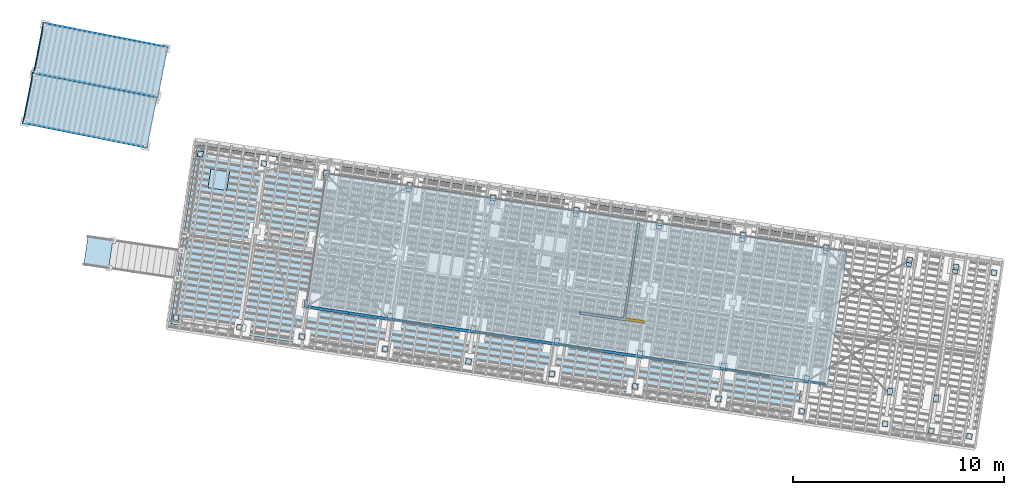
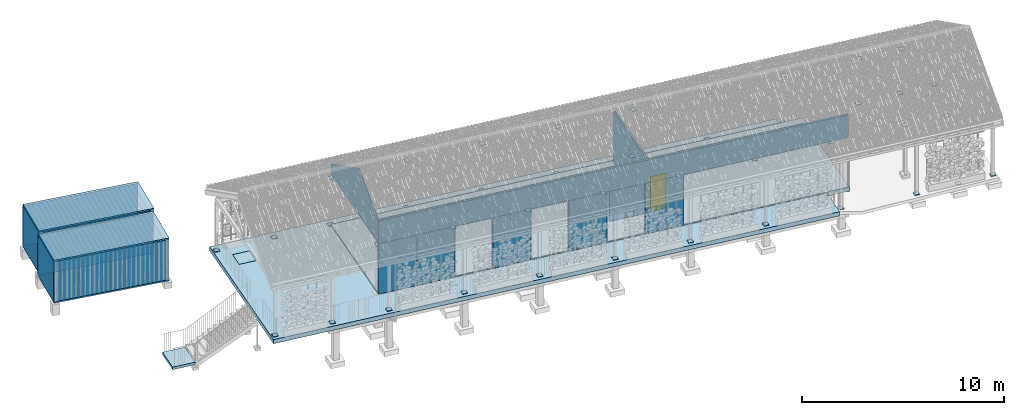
# One storey, part 120 of 131: 50 plates, 7 slabs, 7 walls, 1 door, 3 openings, 5 elements without a shape of their own.
"""IFC4 building model written with IfcOpenShell, lengths in metres."""

from ifc_helpers import new_model, si_unit, direction, frame, origin_with_axes, place, context, subcontext, project, spatial, polyline, outline, extrude, material, layer, layer_set, constituent, constituent_set, element, fill, aggregate, save


model = new_model("IFC4")

# Units and contexts
model_context = context("Model", 3, precision=1e-05, world=origin_with_axes(), true_north=direction((0.0, 1.0)))
body_context = subcontext(model_context, "Body", "Model", "MODEL_VIEW")
ifc_project = project(units=[si_unit("AREAUNIT", "SQUARE_METRE"), si_unit("VOLUMEUNIT", "CUBIC_METRE"), si_unit("LENGTHUNIT", "METRE")], contexts=[model_context])

# Site, building, storey
site_placement = place(None, origin_with_axes())
site = spatial("IfcSite", under=ifc_project, at=site_placement, Name="Lares · Rua das Mercês · artigo 4771")
building_placement = place(site_placement, frame((15.0, 9.7, 14.65), z_axis=(0.0, 0.0, 1.0), x_axis=(0.989015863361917, -0.147809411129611, 0.0)))
building = spatial("IfcBuilding", under=site, at=building_placement, Name="Casa Sobreposta")
storey_placement = place(building_placement, origin_with_axes())
storey = spatial("IfcBuildingStorey", under=building, at=storey_placement, Name="00 · Habitação e estacionamento", Elevation=14.65)

# Plates
ifc_material_1 = material(Name="Aço galvanizado / Stahl verzinkt", Category="steel")
plate_1_placement = place(storey_placement, frame((0.0, 0.0, 2.89), z_axis=(0.0, 0.0, 1.0), x_axis=(1.0, 0.0, 0.0)))
element("IfcPlate", 1, at=plate_1_placement, inside=storey, material=ifc_material_1, Name="Cobertura · ligação madeira aço", PredefinedType="SHEET", context=body_context, shape_type="SweptSolid", body=[
    extrude(outline(polyline([(0.12, -0.04), (0.12, 0.28), (-0.12, 0.28), (-0.12, -0.04), (0.12, -0.04)])), origin_with_axes(), (0.0, 0.0, 1.0), 0.012),
])
plate_2_placement = place(storey_placement, frame((0.0, 0.0, 2.89), z_axis=(0.0, 0.0, 1.0), x_axis=(1.0, 0.0, 0.0)))
element("IfcPlate", 2, at=plate_2_placement, inside=storey, material=ifc_material_1, Name="Cobertura · ligação madeira aço", PredefinedType="SHEET", context=body_context, shape_type="SweptSolid", body=[
    extrude(outline(polyline([(0.12, 6.12), (0.12, 6.44), (-0.12, 6.44), (-0.12, 6.12), (0.12, 6.12)])), origin_with_axes(), (0.0, 0.0, 1.0), 0.012),
])
plate_3_placement = place(storey_placement, frame((0.0, 0.0, 2.89), z_axis=(0.0, 0.0, 1.0), x_axis=(1.0, 0.0, 0.0)))
element("IfcPlate", 3, at=plate_3_placement, inside=storey, material=ifc_material_1, Name="Cobertura · ligação madeira aço", PredefinedType="SHEET", context=body_context, shape_type="SweptSolid", body=[
    extrude(outline(polyline([(4.12, -0.04), (4.12, 0.28), (3.88, 0.28), (3.88, -0.04), (4.12, -0.04)])), origin_with_axes(), (0.0, 0.0, 1.0), 0.012),
])
plate_4_placement = place(storey_placement, frame((0.0, 0.0, 2.89), z_axis=(0.0, 0.0, 1.0), x_axis=(1.0, 0.0, 0.0)))
element("IfcPlate", 4, at=plate_4_placement, inside=storey, material=ifc_material_1, Name="Cobertura · ligação madeira aço", PredefinedType="SHEET", context=body_context, shape_type="SweptSolid", body=[
    extrude(outline(polyline([(4.12, 6.12), (4.12, 6.44), (3.88, 6.44), (3.88, 6.12), (4.12, 6.12)])), origin_with_axes(), (0.0, 0.0, 1.0), 0.012),
])
plate_5_placement = place(storey_placement, frame((0.0, 0.0, 2.89), z_axis=(0.0, 0.0, 1.0), x_axis=(1.0, 0.0, 0.0)))
element("IfcPlate", 5, at=plate_5_placement, inside=storey, material=ifc_material_1, Name="Cobertura · ligação madeira aço", PredefinedType="SHEET", context=body_context, shape_type="SweptSolid", body=[
    extrude(outline(polyline([(8.12, -0.04), (8.12, 0.28), (7.88, 0.28), (7.88, -0.04), (8.12, -0.04)])), origin_with_axes(), (0.0, 0.0, 1.0), 0.012),
])
plate_6_placement = place(storey_placement, frame((0.0, 0.0, 2.89), z_axis=(0.0, 0.0, 1.0), x_axis=(1.0, 0.0, 0.0)))
element("IfcPlate", 6, at=plate_6_placement, inside=storey, material=ifc_material_1, Name="Cobertura · ligação madeira aço", PredefinedType="SHEET", context=body_context, shape_type="SweptSolid", body=[
    extrude(outline(polyline([(8.12, 6.12), (8.12, 6.44), (7.88, 6.44), (7.88, 6.12), (8.12, 6.12)])), origin_with_axes(), (0.0, 0.0, 1.0), 0.012),
])
plate_7_placement = place(storey_placement, frame((0.0, 0.0, 2.89), z_axis=(0.0, 0.0, 1.0), x_axis=(1.0, 0.0, 0.0)))
element("IfcPlate", 7, at=plate_7_placement, inside=storey, material=ifc_material_1, Name="Cobertura · ligação madeira aço", PredefinedType="SHEET", context=body_context, shape_type="SweptSolid", body=[
    extrude(outline(polyline([(12.12, -0.04), (12.12, 0.28), (11.88, 0.28), (11.88, -0.04), (12.12, -0.04)])), origin_with_axes(), (0.0, 0.0, 1.0), 0.012),
])
plate_8_placement = place(storey_placement, frame((0.0, 0.0, 2.89), z_axis=(0.0, 0.0, 1.0), x_axis=(1.0, 0.0, 0.0)))
element("IfcPlate", 8, at=plate_8_placement, inside=storey, material=ifc_material_1, Name="Cobertura · ligação madeira aço", PredefinedType="SHEET", context=body_context, shape_type="SweptSolid", body=[
    extrude(outline(polyline([(12.12, 6.12), (12.12, 6.44), (11.88, 6.44), (11.88, 6.12), (12.12, 6.12)])), origin_with_axes(), (0.0, 0.0, 1.0), 0.012),
])
plate_9_placement = place(storey_placement, frame((0.0, 0.0, 2.89), z_axis=(0.0, 0.0, 1.0), x_axis=(1.0, 0.0, 0.0)))
element("IfcPlate", 9, at=plate_9_placement, inside=storey, material=ifc_material_1, Name="Cobertura · ligação madeira aço", PredefinedType="SHEET", context=body_context, shape_type="SweptSolid", body=[
    extrude(outline(polyline([(16.12, -0.04), (16.12, 0.28), (15.88, 0.28), (15.88, -0.04), (16.12, -0.04)])), origin_with_axes(), (0.0, 0.0, 1.0), 0.012),
])
plate_10_placement = place(storey_placement, frame((0.0, 0.0, 2.89), z_axis=(0.0, 0.0, 1.0), x_axis=(1.0, 0.0, 0.0)))
element("IfcPlate", 10, at=plate_10_placement, inside=storey, material=ifc_material_1, Name="Cobertura · ligação madeira aço", PredefinedType="SHEET", context=body_context, shape_type="SweptSolid", body=[
    extrude(outline(polyline([(16.12, 6.12), (16.12, 6.44), (15.88, 6.44), (15.88, 6.12), (16.12, 6.12)])), origin_with_axes(), (0.0, 0.0, 1.0), 0.012),
])
plate_11_placement = place(storey_placement, frame((0.0, 0.0, 2.89), z_axis=(0.0, 0.0, 1.0), x_axis=(1.0, 0.0, 0.0)))
element("IfcPlate", 11, at=plate_11_placement, inside=storey, material=ifc_material_1, Name="Cobertura · ligação madeira aço", PredefinedType="SHEET", context=body_context, shape_type="SweptSolid", body=[
    extrude(outline(polyline([(20.12, -0.04), (20.12, 0.28), (19.88, 0.28), (19.88, -0.04), (20.12, -0.04)])), origin_with_axes(), (0.0, 0.0, 1.0), 0.012),
])
plate_12_placement = place(storey_placement, frame((0.0, 0.0, 2.89), z_axis=(0.0, 0.0, 1.0), x_axis=(1.0, 0.0, 0.0)))
element("IfcPlate", 12, at=plate_12_placement, inside=storey, material=ifc_material_1, Name="Cobertura · ligação madeira aço", PredefinedType="SHEET", context=body_context, shape_type="SweptSolid", body=[
    extrude(outline(polyline([(20.12, 6.12), (20.12, 6.44), (19.88, 6.44), (19.88, 6.12), (20.12, 6.12)])), origin_with_axes(), (0.0, 0.0, 1.0), 0.012),
])
plate_13_placement = place(storey_placement, frame((0.0, 0.0, 2.89), z_axis=(0.0, 0.0, 1.0), x_axis=(1.0, 0.0, 0.0)))
element("IfcPlate", 13, at=plate_13_placement, inside=storey, material=ifc_material_1, Name="Cobertura · ligação madeira aço", PredefinedType="SHEET", context=body_context, shape_type="SweptSolid", body=[
    extrude(outline(polyline([(24.12, -0.04), (24.12, 0.28), (23.88, 0.28), (23.88, -0.04), (24.12, -0.04)])), origin_with_axes(), (0.0, 0.0, 1.0), 0.012),
])
plate_14_placement = place(storey_placement, frame((0.0, 0.0, 2.89), z_axis=(0.0, 0.0, 1.0), x_axis=(1.0, 0.0, 0.0)))
element("IfcPlate", 14, at=plate_14_placement, inside=storey, material=ifc_material_1, Name="Cobertura · ligação madeira aço", PredefinedType="SHEET", context=body_context, shape_type="SweptSolid", body=[
    extrude(outline(polyline([(24.12, 6.12), (24.12, 6.44), (23.88, 6.44), (23.88, 6.12), (24.12, 6.12)])), origin_with_axes(), (0.0, 0.0, 1.0), 0.012),
])
plate_15_placement = place(storey_placement, frame((0.0, 0.0, 2.89), z_axis=(0.0, 0.0, 1.0), x_axis=(1.0, 0.0, 0.0)))
element("IfcPlate", 15, at=plate_15_placement, inside=storey, material=ifc_material_1, Name="Cobertura · ligação madeira aço", PredefinedType="SHEET", context=body_context, shape_type="SweptSolid", body=[
    extrude(outline(polyline([(28.12, -0.04), (28.12, 0.28), (27.88, 0.28), (27.88, -0.04), (28.12, -0.04)])), origin_with_axes(), (0.0, 0.0, 1.0), 0.012),
])
plate_16_placement = place(storey_placement, frame((0.0, 0.0, 2.89), z_axis=(0.0, 0.0, 1.0), x_axis=(1.0, 0.0, 0.0)))
element("IfcPlate", 16, at=plate_16_placement, inside=storey, material=ifc_material_1, Name="Cobertura · ligação madeira aço", PredefinedType="SHEET", context=body_context, shape_type="SweptSolid", body=[
    extrude(outline(polyline([(28.12, 6.12), (28.12, 6.44), (27.88, 6.44), (27.88, 6.12), (28.12, 6.12)])), origin_with_axes(), (0.0, 0.0, 1.0), 0.012),
])
plate_17_placement = place(storey_placement, frame((0.0, 0.0, 2.89), z_axis=(0.0, 0.0, 1.0), x_axis=(1.0, 0.0, 0.0)))
element("IfcPlate", 17, at=plate_17_placement, inside=storey, material=ifc_material_1, Name="Cobertura · ligação madeira aço", PredefinedType="SHEET", context=body_context, shape_type="SweptSolid", body=[
    extrude(outline(polyline([(30.34, -0.04), (30.34, 0.28), (30.1, 0.28), (30.1, -0.04), (30.34, -0.04)])), origin_with_axes(), (0.0, 0.0, 1.0), 0.012),
])
plate_18_placement = place(storey_placement, frame((0.0, 0.0, 2.89), z_axis=(0.0, 0.0, 1.0), x_axis=(1.0, 0.0, 0.0)))
element("IfcPlate", 18, at=plate_18_placement, inside=storey, material=ifc_material_1, Name="Cobertura · ligação madeira aço", PredefinedType="SHEET", context=body_context, shape_type="SweptSolid", body=[
    extrude(outline(polyline([(30.34, 6.12), (30.34, 6.44), (30.1, 6.44), (30.1, 6.12), (30.34, 6.12)])), origin_with_axes(), (0.0, 0.0, 1.0), 0.012),
])
ifc_material_2 = material(Name="Vidro / Normalglas", Category="glass")
plate_19_placement = place(storey_placement, frame((0.0, 0.0, 0.0), z_axis=(1.0, 0.0, 0.0), x_axis=(0.0, 1.0, 0.0)))
element("IfcPlate", 19, at=plate_19_placement, inside=storey, material=ifc_material_2, Name="Empena poente envidraçada", PredefinedType="SHEET", context=body_context, shape_type="SweptSolid", body=[
    extrude(outline(polyline([(0.0, 3.05), (6.4, 3.05), (6.4, 3.66641016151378), (2.55, 5.88920869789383), (0.0, 4.41696551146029), (0.0, 3.05)])), origin_with_axes(), (0.0, 0.0, 1.0), 0.02),
])

# Assembly, slabs, opening, plate
assembly_1_placement = place(storey_placement, origin_with_axes())
assembly_1 = element("IfcElementAssembly", 20, at=assembly_1_placement, inside=storey, Name="Pódio · terraço, casa térrea e cisterna", ObjectType="CISTERN_PODIUM", PredefinedType="USERDEFINED")
ifc_material_3 = material(Name="Betão armado / Stahlbeton", Category="concrete")
slab_1_placement = place(assembly_1_placement, frame((0.0, 0.0, -0.25), z_axis=(0.0, 0.0, 1.0), x_axis=(1.0, 0.0, 0.0)))
slab_1 = element("IfcSlab", 21, at=slab_1_placement, material=ifc_material_3, Name="Pódio · laje da casa 250 mm", PredefinedType="FLOOR", context=body_context, shape_type="SweptSolid", body=[
    extrude(outline(polyline([(25.01, 0.0), (25.01, 6.4), (0.0, 6.4), (0.0, 0.0), (25.01, 0.0)])), origin_with_axes(), (0.0, 0.0, 1.0), 0.25),
])
slab_2_placement = place(assembly_1_placement, frame((0.0, 0.0, -0.29), z_axis=(0.0, 0.0, 1.0), x_axis=(1.0, 0.0, 0.0)))
slab_2 = element("IfcSlab", 22, at=slab_2_placement, material=ifc_material_3, Name="Pódio · terraço e faixa de proteção sul", PredefinedType="FLOOR", context=body_context, shape_type="SweptSolid", body=[
    extrude(outline(polyline([(-6.25, 6.85), (23.8, 6.85), (23.8, 6.4), (0.0, 6.4), (0.0, 0.0), (23.8, 0.0), (23.8, -1.75), (-6.25, -1.75), (-6.25, 6.85)])), origin_with_axes(), (0.0, 0.0, 1.0), 0.25),
])
opening_1_placement = place(slab_2_placement, frame((0.0, 0.0, -0.06), z_axis=(0.0, 0.0, 1.0), x_axis=(1.0, 0.0, 0.0)))
element("IfcOpeningElement", 23, at=opening_1_placement, cuts=slab_2, Name="Cisterna · abertura de inspeção", PredefinedType="OPENING", context=body_context, shape_type="SweptSolid", body=[
    extrude(outline(polyline([(-4.55, 4.9), (-4.55, 5.8), (-5.45, 5.8), (-5.45, 4.9), (-4.55, 4.9)])), origin_with_axes(), (0.0, 0.0, 1.0), 0.4),
])
plate_20_placement = place(assembly_1_placement, frame((0.0, 0.0, -0.085), z_axis=(0.0, 0.0, 1.0), x_axis=(1.0, 0.0, 0.0)))
plate_20 = element("IfcPlate", 24, at=plate_20_placement, material=ifc_material_1, Name="Cisterna · tampa estanque de inspeção", PredefinedType="SHEET", context=body_context, shape_type="SweptSolid", body=[
    extrude(outline(polyline([(-4.55, 4.9), (-4.55, 5.8), (-5.45, 5.8), (-5.45, 4.9), (-4.55, 4.9)])), origin_with_axes(), (0.0, 0.0, 1.0), 0.045),
])
aggregate(assembly_1, [slab_1, slab_2, plate_20])

# Stair, slab
stair_placement = place(storey_placement, origin_with_axes())
stair = element("IfcStair", 25, at=stair_placement, inside=storey, Name="Jardim · escada pela fachada poente", PredefinedType="STRAIGHT_RUN_STAIR")
slab_3_placement = place(stair_placement, frame((0.0, 0.0, -2.1), z_axis=(0.0, 0.0, 1.0), x_axis=(1.0, 0.0, 0.0)))
slab_3 = element("IfcSlab", 26, at=slab_3_placement, material=ifc_material_3, Name="Jardim · patamar poente", PredefinedType="LANDING", context=body_context, shape_type="SweptSolid", body=[
    extrude(outline(polyline([(-9.55, 0.4), (-9.55, 1.8), (-10.75, 1.8), (-10.75, 0.4), (-9.55, 0.4)])), origin_with_axes(), (0.0, 0.0, 1.0), 0.15),
])
aggregate(stair, [slab_3])

# Assembly, plates
assembly_2_placement = place(storey_placement, origin_with_axes())
assembly_2 = element("IfcElementAssembly", 27, at=assembly_2_placement, inside=storey, Name="Varanda coberta · continuação integral da cobertura", ObjectType="COVERED_PODIUM_BALCONY", PredefinedType="USERDEFINED")
plate_21_placement = place(assembly_2_placement, frame((0.0, 0.0, -0.04), z_axis=(0.0, 0.0, 1.0), x_axis=(1.0, 0.0, 0.0)))
plate_21 = element("IfcPlate", 28, at=plate_21_placement, material=ifc_material_1, Name="Varanda coberta · base metálica", PredefinedType="SHEET", context=body_context, shape_type="SweptSolid", body=[
    extrude(outline(polyline([(-5.92, -1.56), (-5.92, -1.3), (-6.18, -1.3), (-6.18, -1.56), (-5.92, -1.56)])), origin_with_axes(), (0.0, 0.0, 1.0), 0.025),
])
plate_22_placement = place(assembly_2_placement, frame((0.0, 0.0, -0.04), z_axis=(0.0, 0.0, 1.0), x_axis=(1.0, 0.0, 0.0)))
plate_22 = element("IfcPlate", 29, at=plate_22_placement, material=ifc_material_1, Name="Varanda coberta · base metálica", PredefinedType="SHEET", context=body_context, shape_type="SweptSolid", body=[
    extrude(outline(polyline([(-5.92, 6.3), (-5.92, 6.56), (-6.18, 6.56), (-6.18, 6.3), (-5.92, 6.3)])), origin_with_axes(), (0.0, 0.0, 1.0), 0.025),
])
plate_23_placement = place(assembly_2_placement, frame((0.0, 0.0, -0.04), z_axis=(0.0, 0.0, 1.0), x_axis=(1.0, 0.0, 0.0)))
plate_23 = element("IfcPlate", 30, at=plate_23_placement, material=ifc_material_1, Name="Varanda coberta · base metálica", PredefinedType="SHEET", context=body_context, shape_type="SweptSolid", body=[
    extrude(outline(polyline([(-2.87, -1.56), (-2.87, -1.3), (-3.13, -1.3), (-3.13, -1.56), (-2.87, -1.56)])), origin_with_axes(), (0.0, 0.0, 1.0), 0.025),
])
plate_24_placement = place(assembly_2_placement, frame((0.0, 0.0, -0.04), z_axis=(0.0, 0.0, 1.0), x_axis=(1.0, 0.0, 0.0)))
plate_24 = element("IfcPlate", 31, at=plate_24_placement, material=ifc_material_1, Name="Varanda coberta · base metálica", PredefinedType="SHEET", context=body_context, shape_type="SweptSolid", body=[
    extrude(outline(polyline([(-2.87, 6.3), (-2.87, 6.56), (-3.13, 6.56), (-3.13, 6.3), (-2.87, 6.3)])), origin_with_axes(), (0.0, 0.0, 1.0), 0.025),
])
plate_25_placement = place(assembly_2_placement, frame((0.0, 0.0, -0.04), z_axis=(0.0, 0.0, 1.0), x_axis=(1.0, 0.0, 0.0)))
plate_25 = element("IfcPlate", 32, at=plate_25_placement, material=ifc_material_1, Name="Varanda coberta · base metálica", PredefinedType="SHEET", context=body_context, shape_type="SweptSolid", body=[
    extrude(outline(polyline([(0.13, -1.56), (0.13, -1.3), (-0.13, -1.3), (-0.13, -1.56), (0.13, -1.56)])), origin_with_axes(), (0.0, 0.0, 1.0), 0.025),
])
plate_26_placement = place(assembly_2_placement, frame((0.0, 0.0, -0.04), z_axis=(0.0, 0.0, 1.0), x_axis=(1.0, 0.0, 0.0)))
plate_26 = element("IfcPlate", 33, at=plate_26_placement, material=ifc_material_1, Name="Varanda coberta · base metálica", PredefinedType="SHEET", context=body_context, shape_type="SweptSolid", body=[
    extrude(outline(polyline([(0.13, 6.3), (0.13, 6.56), (-0.13, 6.56), (-0.13, 6.3), (0.13, 6.3)])), origin_with_axes(), (0.0, 0.0, 1.0), 0.025),
])
plate_27_placement = place(assembly_2_placement, frame((0.0, 0.0, -0.04), z_axis=(0.0, 0.0, 1.0), x_axis=(1.0, 0.0, 0.0)))
plate_27 = element("IfcPlate", 34, at=plate_27_placement, material=ifc_material_1, Name="Varanda coberta · base metálica", PredefinedType="SHEET", context=body_context, shape_type="SweptSolid", body=[
    extrude(outline(polyline([(4.13, -1.56), (4.13, -1.3), (3.87, -1.3), (3.87, -1.56), (4.13, -1.56)])), origin_with_axes(), (0.0, 0.0, 1.0), 0.025),
])
plate_28_placement = place(assembly_2_placement, frame((0.0, 0.0, -0.04), z_axis=(0.0, 0.0, 1.0), x_axis=(1.0, 0.0, 0.0)))
plate_28 = element("IfcPlate", 35, at=plate_28_placement, material=ifc_material_1, Name="Varanda coberta · base metálica", PredefinedType="SHEET", context=body_context, shape_type="SweptSolid", body=[
    extrude(outline(polyline([(4.13, 6.3), (4.13, 6.56), (3.87, 6.56), (3.87, 6.3), (4.13, 6.3)])), origin_with_axes(), (0.0, 0.0, 1.0), 0.025),
])
plate_29_placement = place(assembly_2_placement, frame((0.0, 0.0, -0.04), z_axis=(0.0, 0.0, 1.0), x_axis=(1.0, 0.0, 0.0)))
plate_29 = element("IfcPlate", 36, at=plate_29_placement, material=ifc_material_1, Name="Varanda coberta · base metálica", PredefinedType="SHEET", context=body_context, shape_type="SweptSolid", body=[
    extrude(outline(polyline([(8.13, -1.56), (8.13, -1.3), (7.87, -1.3), (7.87, -1.56), (8.13, -1.56)])), origin_with_axes(), (0.0, 0.0, 1.0), 0.025),
])
plate_30_placement = place(assembly_2_placement, frame((0.0, 0.0, -0.04), z_axis=(0.0, 0.0, 1.0), x_axis=(1.0, 0.0, 0.0)))
plate_30 = element("IfcPlate", 37, at=plate_30_placement, material=ifc_material_1, Name="Varanda coberta · base metálica", PredefinedType="SHEET", context=body_context, shape_type="SweptSolid", body=[
    extrude(outline(polyline([(8.13, 6.3), (8.13, 6.56), (7.87, 6.56), (7.87, 6.3), (8.13, 6.3)])), origin_with_axes(), (0.0, 0.0, 1.0), 0.025),
])
plate_31_placement = place(assembly_2_placement, frame((0.0, 0.0, -0.04), z_axis=(0.0, 0.0, 1.0), x_axis=(1.0, 0.0, 0.0)))
plate_31 = element("IfcPlate", 38, at=plate_31_placement, material=ifc_material_1, Name="Varanda coberta · base metálica", PredefinedType="SHEET", context=body_context, shape_type="SweptSolid", body=[
    extrude(outline(polyline([(12.13, -1.56), (12.13, -1.3), (11.87, -1.3), (11.87, -1.56), (12.13, -1.56)])), origin_with_axes(), (0.0, 0.0, 1.0), 0.025),
])
plate_32_placement = place(assembly_2_placement, frame((0.0, 0.0, -0.04), z_axis=(0.0, 0.0, 1.0), x_axis=(1.0, 0.0, 0.0)))
plate_32 = element("IfcPlate", 39, at=plate_32_placement, material=ifc_material_1, Name="Varanda coberta · base metálica", PredefinedType="SHEET", context=body_context, shape_type="SweptSolid", body=[
    extrude(outline(polyline([(12.13, 6.3), (12.13, 6.56), (11.87, 6.56), (11.87, 6.3), (12.13, 6.3)])), origin_with_axes(), (0.0, 0.0, 1.0), 0.025),
])
plate_33_placement = place(assembly_2_placement, frame((0.0, 0.0, -0.04), z_axis=(0.0, 0.0, 1.0), x_axis=(1.0, 0.0, 0.0)))
plate_33 = element("IfcPlate", 40, at=plate_33_placement, material=ifc_material_1, Name="Varanda coberta · base metálica", PredefinedType="SHEET", context=body_context, shape_type="SweptSolid", body=[
    extrude(outline(polyline([(16.13, -1.56), (16.13, -1.3), (15.87, -1.3), (15.87, -1.56), (16.13, -1.56)])), origin_with_axes(), (0.0, 0.0, 1.0), 0.025),
])
plate_34_placement = place(assembly_2_placement, frame((0.0, 0.0, -0.04), z_axis=(0.0, 0.0, 1.0), x_axis=(1.0, 0.0, 0.0)))
plate_34 = element("IfcPlate", 41, at=plate_34_placement, material=ifc_material_1, Name="Varanda coberta · base metálica", PredefinedType="SHEET", context=body_context, shape_type="SweptSolid", body=[
    extrude(outline(polyline([(16.13, 6.3), (16.13, 6.56), (15.87, 6.56), (15.87, 6.3), (16.13, 6.3)])), origin_with_axes(), (0.0, 0.0, 1.0), 0.025),
])
plate_35_placement = place(assembly_2_placement, frame((0.0, 0.0, -0.04), z_axis=(0.0, 0.0, 1.0), x_axis=(1.0, 0.0, 0.0)))
plate_35 = element("IfcPlate", 42, at=plate_35_placement, material=ifc_material_1, Name="Varanda coberta · base metálica", PredefinedType="SHEET", context=body_context, shape_type="SweptSolid", body=[
    extrude(outline(polyline([(20.13, -1.56), (20.13, -1.3), (19.87, -1.3), (19.87, -1.56), (20.13, -1.56)])), origin_with_axes(), (0.0, 0.0, 1.0), 0.025),
])
plate_36_placement = place(assembly_2_placement, frame((0.0, 0.0, -0.04), z_axis=(0.0, 0.0, 1.0), x_axis=(1.0, 0.0, 0.0)))
plate_36 = element("IfcPlate", 43, at=plate_36_placement, material=ifc_material_1, Name="Varanda coberta · base metálica", PredefinedType="SHEET", context=body_context, shape_type="SweptSolid", body=[
    extrude(outline(polyline([(20.13, 6.3), (20.13, 6.56), (19.87, 6.56), (19.87, 6.3), (20.13, 6.3)])), origin_with_axes(), (0.0, 0.0, 1.0), 0.025),
])
plate_37_placement = place(assembly_2_placement, frame((0.0, 0.0, -0.0895950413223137), z_axis=(0.0, 0.0, 1.0), x_axis=(1.0, 0.0, 0.0)))
plate_37 = element("IfcPlate", 44, at=plate_37_placement, material=ifc_material_1, Name="Varanda coberta · base metálica", PredefinedType="SHEET", context=body_context, shape_type="SweptSolid", body=[
    extrude(outline(polyline([(24.13, -1.56), (24.13, -1.3), (23.87, -1.3), (23.87, -1.56), (24.13, -1.56)])), origin_with_axes(), (0.0, 0.0, 1.0), 0.025),
])
plate_38_placement = place(assembly_2_placement, frame((0.0, 0.0, -0.0376280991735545), z_axis=(0.0, 0.0, 1.0), x_axis=(1.0, 0.0, 0.0)))
plate_38 = element("IfcPlate", 45, at=plate_38_placement, material=ifc_material_1, Name="Varanda coberta · base metálica", PredefinedType="SHEET", context=body_context, shape_type="SweptSolid", body=[
    extrude(outline(polyline([(24.13, 6.3), (24.13, 6.56), (23.87, 6.56), (23.87, 6.3), (24.13, 6.3)])), origin_with_axes(), (0.0, 0.0, 1.0), 0.025),
])
plate_39_placement = place(assembly_2_placement, frame((0.0, 0.0, -0.24005), z_axis=(0.0, 0.0, 1.0), x_axis=(1.0, 0.0, 0.0)))
plate_39 = element("IfcPlate", 46, at=plate_39_placement, material=ifc_material_1, Name="Varanda coberta · base metálica", PredefinedType="SHEET", context=body_context, shape_type="SweptSolid", body=[
    extrude(outline(polyline([(28.13, -1.56), (28.13, -1.3), (27.87, -1.3), (27.87, -1.56), (28.13, -1.56)])), origin_with_axes(), (0.0, 0.0, 1.0), 0.025),
])
plate_40_placement = place(assembly_2_placement, frame((0.0, 0.0, 0.0743500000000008), z_axis=(0.0, 0.0, 1.0), x_axis=(1.0, 0.0, 0.0)))
plate_40 = element("IfcPlate", 47, at=plate_40_placement, material=ifc_material_1, Name="Varanda coberta · base metálica", PredefinedType="SHEET", context=body_context, shape_type="SweptSolid", body=[
    extrude(outline(polyline([(28.13, 6.3), (28.13, 6.56), (27.87, 6.56), (27.87, 6.3), (28.13, 6.3)])), origin_with_axes(), (0.0, 0.0, 1.0), 0.025),
])
plate_41_placement = place(assembly_2_placement, frame((0.0, 0.0, -0.18455), z_axis=(0.0, 0.0, 1.0), x_axis=(1.0, 0.0, 0.0)))
plate_41 = element("IfcPlate", 48, at=plate_41_placement, material=ifc_material_1, Name="Varanda coberta · base metálica", PredefinedType="SHEET", context=body_context, shape_type="SweptSolid", body=[
    extrude(outline(polyline([(30.35, -1.56), (30.35, -1.3), (30.09, -1.3), (30.09, -1.56), (30.35, -1.56)])), origin_with_axes(), (0.0, 0.0, 1.0), 0.025),
])
plate_42_placement = place(assembly_2_placement, frame((0.0, 0.0, 0.129850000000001), z_axis=(0.0, 0.0, 1.0), x_axis=(1.0, 0.0, 0.0)))
plate_42 = element("IfcPlate", 49, at=plate_42_placement, material=ifc_material_1, Name="Varanda coberta · base metálica", PredefinedType="SHEET", context=body_context, shape_type="SweptSolid", body=[
    extrude(outline(polyline([(30.35, 6.3), (30.35, 6.56), (30.09, 6.56), (30.09, 6.3), (30.35, 6.3)])), origin_with_axes(), (0.0, 0.0, 1.0), 0.025),
])
plate_43_placement = place(assembly_2_placement, frame((0.0, 0.0, -0.1388), z_axis=(0.0, 0.0, 1.0), x_axis=(1.0, 0.0, 0.0)))
plate_43 = element("IfcPlate", 50, at=plate_43_placement, material=ifc_material_1, Name="Varanda coberta · base metálica", PredefinedType="SHEET", context=body_context, shape_type="SweptSolid", body=[
    extrude(outline(polyline([(32.18, -1.56), (32.18, -1.3), (31.92, -1.3), (31.92, -1.56), (32.18, -1.56)])), origin_with_axes(), (0.0, 0.0, 1.0), 0.025),
])
plate_44_placement = place(assembly_2_placement, frame((0.0, 0.0, 0.175600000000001), z_axis=(0.0, 0.0, 1.0), x_axis=(1.0, 0.0, 0.0)))
plate_44 = element("IfcPlate", 51, at=plate_44_placement, material=ifc_material_1, Name="Varanda coberta · base metálica", PredefinedType="SHEET", context=body_context, shape_type="SweptSolid", body=[
    extrude(outline(polyline([(32.18, 6.3), (32.18, 6.56), (31.92, 6.56), (31.92, 6.3), (32.18, 6.3)])), origin_with_axes(), (0.0, 0.0, 1.0), 0.025),
])
aggregate(assembly_2, [plate_21, plate_22, plate_23, plate_24, plate_25, plate_26, plate_27, plate_28, plate_29, plate_30, plate_31, plate_32, plate_33, plate_34, plate_35, plate_36, plate_37, plate_38, plate_39, plate_40, plate_41, plate_42, plate_43, plate_44])

# Assembly, slabs, plates
assembly_3_placement = place(storey_placement, frame((-14.4335953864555, 9.04888612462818, 0.0), z_axis=(0.0, 0.0, 1.0), x_axis=(0.999032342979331, -0.0439815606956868, 0.0)))
assembly_3 = element("IfcElementAssembly", 52, at=assembly_3_placement, inside=storey, Name="Contentor existente 1 · 6 m", ObjectType="EXISTING_SHIPPING_CONTAINER", PredefinedType="USERDEFINED")
ifc_material_4 = material(Name="Contentor · pintura 1", Category="steel")
slab_4_placement = place(assembly_3_placement, frame((0.0, 0.0, -1.01314181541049), z_axis=(0.0, 0.0, 1.0), x_axis=(1.0, 0.0, 0.0)))
slab_4 = element("IfcSlab", 53, at=slab_4_placement, material=ifc_material_4, Name="Contentor · piso ou teto", PredefinedType="FLOOR", context=body_context, shape_type="SweptSolid", body=[
    extrude(outline(polyline([(6.0, 0.0), (6.0, 2.44), (0.0, 2.44), (0.0, 0.0), (6.0, 0.0)])), origin_with_axes(), (0.0, 0.0, 1.0), 0.08),
])
slab_5_placement = place(assembly_3_placement, frame((0.0, 0.0, 1.49685818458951), z_axis=(0.0, 0.0, 1.0), x_axis=(1.0, 0.0, 0.0)))
slab_5 = element("IfcSlab", 54, at=slab_5_placement, material=ifc_material_4, Name="Contentor · piso ou teto", PredefinedType="FLOOR", context=body_context, shape_type="SweptSolid", body=[
    extrude(outline(polyline([(6.0, 0.0), (6.0, 2.44), (0.0, 2.44), (0.0, 0.0), (6.0, 0.0)])), origin_with_axes(), (0.0, 0.0, 1.0), 0.08),
])
plate_45_placement = place(assembly_3_placement, frame((0.0, 0.0, -0.933141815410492), z_axis=(0.0, 0.0, 1.0), x_axis=(1.0, 0.0, 0.0)))
plate_45 = element("IfcPlate", 55, at=plate_45_placement, material=ifc_material_4, Name="Contentor · chapa lateral", context=body_context, shape_type="SweptSolid", body=[
    extrude(outline(polyline([(6.0, 0.0325), (6.0, 0.0075), (0.0, 0.0075), (0.0, 0.0325), (6.0, 0.0325)])), origin_with_axes(), (0.0, 0.0, 1.0), 2.43),
])
plate_46_placement = place(assembly_3_placement, frame((0.0, 0.0, -0.933141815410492), z_axis=(0.0, 0.0, 1.0), x_axis=(1.0, 0.0, 0.0)))
plate_46 = element("IfcPlate", 56, at=plate_46_placement, material=ifc_material_4, Name="Contentor · chapa lateral", context=body_context, shape_type="SweptSolid", body=[
    extrude(outline(polyline([(6.0, 2.4325), (6.0, 2.4075), (0.0, 2.4075), (0.0, 2.4325), (6.0, 2.4325)])), origin_with_axes(), (0.0, 0.0, 1.0), 2.43),
])
plate_47_placement = place(assembly_3_placement, frame((0.0, 0.0, -0.933141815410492), z_axis=(0.0, 0.0, 1.0), x_axis=(1.0, 0.0, 0.0)))
plate_47 = element("IfcPlate", 57, at=plate_47_placement, material=ifc_material_4, Name="Contentor · chapa de fundo", context=body_context, shape_type="SweptSolid", body=[
    extrude(outline(polyline([(-0.025, 2.44), (0.025, 2.44), (0.025, 0.0), (-0.025, 0.0), (-0.025, 2.44)])), origin_with_axes(), (0.0, 0.0, 1.0), 2.43),
])
aggregate(assembly_3, [slab_4, slab_5, plate_45, plate_46, plate_47])

assembly_4_placement = place(storey_placement, frame((-14.5932944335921, 6.63122214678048, 0.0), z_axis=(0.0, 0.0, 1.0), x_axis=(0.998832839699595, -0.0483007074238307, 0.0)))
assembly_4 = element("IfcElementAssembly", 58, at=assembly_4_placement, inside=storey, Name="Contentor existente 2 · 6 m", ObjectType="EXISTING_SHIPPING_CONTAINER", PredefinedType="USERDEFINED")
ifc_material_5 = material(Name="Contentor · pintura 2", Category="steel")
slab_6_placement = place(assembly_4_placement, frame((0.0, 0.0, -1.16875169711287), z_axis=(0.0, 0.0, 1.0), x_axis=(1.0, 0.0, 0.0)))
slab_6 = element("IfcSlab", 59, at=slab_6_placement, material=ifc_material_5, Name="Contentor · piso ou teto", PredefinedType="FLOOR", context=body_context, shape_type="SweptSolid", body=[
    extrude(outline(polyline([(6.0, 0.0), (6.0, 2.44), (0.0, 2.44), (0.0, 0.0), (6.0, 0.0)])), origin_with_axes(), (0.0, 0.0, 1.0), 0.08),
])
slab_7_placement = place(assembly_4_placement, frame((0.0, 0.0, 1.34124830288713), z_axis=(0.0, 0.0, 1.0), x_axis=(1.0, 0.0, 0.0)))
slab_7 = element("IfcSlab", 60, at=slab_7_placement, material=ifc_material_5, Name="Contentor · piso ou teto", PredefinedType="FLOOR", context=body_context, shape_type="SweptSolid", body=[
    extrude(outline(polyline([(6.0, 0.0), (6.0, 2.44), (0.0, 2.44), (0.0, 0.0), (6.0, 0.0)])), origin_with_axes(), (0.0, 0.0, 1.0), 0.08),
])
plate_48_placement = place(assembly_4_placement, frame((0.0, 0.0, -1.08875169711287), z_axis=(0.0, 0.0, 1.0), x_axis=(1.0, 0.0, 0.0)))
plate_48 = element("IfcPlate", 61, at=plate_48_placement, material=ifc_material_5, Name="Contentor · chapa lateral", context=body_context, shape_type="SweptSolid", body=[
    extrude(outline(polyline([(6.0, 0.0325), (6.0, 0.0075), (0.0, 0.0075), (0.0, 0.0325), (6.0, 0.0325)])), origin_with_axes(), (0.0, 0.0, 1.0), 2.43),
])
plate_49_placement = place(assembly_4_placement, frame((0.0, 0.0, -1.08875169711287), z_axis=(0.0, 0.0, 1.0), x_axis=(1.0, 0.0, 0.0)))
plate_49 = element("IfcPlate", 62, at=plate_49_placement, material=ifc_material_5, Name="Contentor · chapa lateral", context=body_context, shape_type="SweptSolid", body=[
    extrude(outline(polyline([(6.0, 2.4325), (6.0, 2.4075), (0.0, 2.4075), (0.0, 2.4325), (6.0, 2.4325)])), origin_with_axes(), (0.0, 0.0, 1.0), 2.43),
])
plate_50_placement = place(assembly_4_placement, frame((0.0, 0.0, -1.08875169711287), z_axis=(0.0, 0.0, 1.0), x_axis=(1.0, 0.0, 0.0)))
plate_50 = element("IfcPlate", 63, at=plate_50_placement, material=ifc_material_5, Name="Contentor · chapa de fundo", context=body_context, shape_type="SweptSolid", body=[
    extrude(outline(polyline([(-0.025, 2.44), (0.025, 2.44), (0.025, 0.0), (-0.025, 0.0), (-0.025, 2.44)])), origin_with_axes(), (0.0, 0.0, 1.0), 2.43),
])
aggregate(assembly_4, [slab_6, slab_7, plate_48, plate_49, plate_50])

# Wall, openings, door
ifc_material_6 = material(Name="OSB", Category="wood")
ifc_constituent_1 = constituent(ifc_material_6, Name="osb")
ifc_material_7 = material(Name="Lã mineral / Mineralwolle 2", Category="mineral wool")
ifc_constituent_2 = constituent(ifc_material_7, Name="wool")
ifc_constituent_set = constituent_set(constituents=[ifc_constituent_1, ifc_constituent_2], Name="OSB22 / lã mineral / OSB22")
wall_1_placement = place(storey_placement, origin_with_axes())
wall_1 = element("IfcWall", 64, at=wall_1_placement, inside=storey, material=ifc_constituent_set, Name="Divisória 3 · OSB 22 mm nas duas faces", context=body_context, shape_type="SweptSolid", body=[
    extrude(outline(polyline([(15.07, 6.27299999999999), (15.07, 1.70993390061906), (15.9846265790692, 1.71008560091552), (15.9846448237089, 1.60008560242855), (15.1199999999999, 1.59994219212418), (15.1199999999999, 1.57999999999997), (12.8699999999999, 1.57999999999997), (12.8699999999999, 1.68999999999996), (14.97, 1.68999999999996), (14.97, 6.27299999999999), (15.07, 6.27299999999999)]), holes=[polyline([(14.992, 1.66799999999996), (12.8919999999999, 1.66799999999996), (12.8919999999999, 1.60199999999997), (15.0979999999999, 1.60199999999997), (15.0979999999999, 1.6219385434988), (15.9626411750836, 1.62208195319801), (15.9626302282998, 1.68808195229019), (15.048, 1.68793025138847), (15.048, 6.25099999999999), (14.992, 6.25099999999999), (14.992, 1.66799999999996)])]), origin_with_axes(), (0.0, 0.0, 1.0), 3.05),
    extrude(outline(polyline([(14.992, 6.25099999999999), (15.048, 6.25099999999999), (15.048, 1.68793025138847), (15.9626302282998, 1.68808195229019), (15.9626411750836, 1.62208195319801), (15.0979999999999, 1.6219385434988), (15.0979999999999, 1.60199999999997), (12.8919999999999, 1.60199999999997), (12.8919999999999, 1.66799999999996), (14.992, 1.66799999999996), (14.992, 6.25099999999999)])), origin_with_axes(), (0.0, 0.0, 1.0), 3.05),
])
opening_2_placement = place(wall_1_placement, origin_with_axes())
opening_2 = element("IfcOpeningElement", 65, at=opening_2_placement, cuts=wall_1, PredefinedType="OPENING", context=body_context, shape_type="SweptSolid", body=[
    extrude(outline(polyline([(15.9146091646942, 1.81507398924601), (15.9146622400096, 1.49507399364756), (15.0845696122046, 1.49493631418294), (15.0845165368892, 1.8149363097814), (15.9146091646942, 1.81507398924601)])), origin_with_axes(), (0.0, 0.0, 1.0), 2.1),
])
opening_3_placement = place(wall_1_placement, origin_with_axes())
element("IfcOpeningElement", 66, at=opening_3_placement, cuts=wall_1, PredefinedType="OPENING", context=body_context, shape_type="SweptSolid", body=[
    extrude(outline(polyline([(12.9045964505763, 1.81507398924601), (12.9046495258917, 1.49507399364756), (12.0745568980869, 1.49493631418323), (12.0745038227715, 1.81493630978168), (12.9045964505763, 1.81507398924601)])), origin_with_axes(), (0.0, 0.0, 1.0), 2.1),
])
door_placement = place(storey_placement, origin_with_axes())
door = element("IfcDoor", 67, at=door_placement, inside=storey, material=ifc_material_6, Name="Porta interior 1", OperationType="SINGLE_SWING_LEFT", OverallHeight=2.1, OverallWidth=0.830092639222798, PredefinedType="DOOR", context=body_context, shape_type="SweptSolid", body=[
    extrude(outline(polyline([(15.9146327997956, 1.67257399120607), (15.9146386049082, 1.63757399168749), (15.0845459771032, 1.63743631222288), (15.0845401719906, 1.67243631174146), (15.9146327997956, 1.67257399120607)])), origin_with_axes(), (0.0, 0.0, 1.0), 2.1),
])
fill(opening_2, door)

# Walls
ifc_material_8 = material(Name="Aço pintado / Stahl lackiert", Category="steel")
ifc_layer_1 = layer(ifc_material_8, 0.005, Name="steel")
ifc_layer_2 = layer(ifc_material_7, 0.12, Name="wool")
ifc_layer_3 = layer(ifc_material_8, 0.00516, Name="steel")
ifc_layer_set_1 = layer_set([ifc_layer_1, ifc_layer_2, ifc_layer_3], Name="Casa DFL sandwich · 130.16 mm")
wall_2_placement = place(storey_placement, origin_with_axes())
element("IfcWall", 68, at=wall_2_placement, inside=storey, material=ifc_layer_set_1, Name="Painel opaco sul 0", context=body_context, shape_type="SweptSolid", body=[
    extrude(outline(polyline([(2.02133333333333, 0.06508), (2.02133333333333, -0.06508), (0.0, -0.06508), (0.0, 0.06508), (2.02133333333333, 0.06508)])), origin_with_axes(), (0.0, 0.0, 1.0), 3.05),
])
ifc_layer_4 = layer(ifc_material_8, 0.005, Name="steel")
ifc_layer_5 = layer(ifc_material_7, 0.12, Name="wool")
ifc_layer_6 = layer(ifc_material_8, 0.00516, Name="steel")
ifc_layer_set_2 = layer_set([ifc_layer_4, ifc_layer_5, ifc_layer_6], Name="Casa DFL sandwich · 130.16 mm")
wall_3_placement = place(storey_placement, origin_with_axes())
element("IfcWall", 69, at=wall_3_placement, inside=storey, material=ifc_layer_set_2, Name="Painel opaco sul 1", context=body_context, shape_type="SweptSolid", body=[
    extrude(outline(polyline([(4.04266666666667, 0.06508), (4.04266666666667, -0.06508), (2.02133333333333, -0.06508), (2.02133333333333, 0.06508), (4.04266666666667, 0.06508)])), origin_with_axes(), (0.0, 0.0, 1.0), 3.05),
])
ifc_layer_7 = layer(ifc_material_8, 0.005, Name="steel")
ifc_layer_8 = layer(ifc_material_7, 0.12, Name="wool")
ifc_layer_9 = layer(ifc_material_8, 0.00516, Name="steel")
ifc_layer_set_3 = layer_set([ifc_layer_7, ifc_layer_8, ifc_layer_9], Name="Casa DFL sandwich · 130.16 mm")
wall_4_placement = place(storey_placement, origin_with_axes())
element("IfcWall", 70, at=wall_4_placement, inside=storey, material=ifc_layer_set_3, Name="Painel opaco sul 3", context=body_context, shape_type="SweptSolid", body=[
    extrude(outline(polyline([(8.08533333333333, 0.06508), (8.08533333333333, -0.06508), (6.064, -0.06508), (6.064, 0.06508), (8.08533333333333, 0.06508)])), origin_with_axes(), (0.0, 0.0, 1.0), 3.05),
])
ifc_layer_10 = layer(ifc_material_8, 0.005, Name="steel")
ifc_layer_11 = layer(ifc_material_7, 0.12, Name="wool")
ifc_layer_12 = layer(ifc_material_8, 0.00516, Name="steel")
ifc_layer_set_4 = layer_set([ifc_layer_10, ifc_layer_11, ifc_layer_12], Name="Casa DFL sandwich · 130.16 mm")
wall_5_placement = place(storey_placement, origin_with_axes())
element("IfcWall", 71, at=wall_5_placement, inside=storey, material=ifc_layer_set_4, Name="Painel opaco sul 5", context=body_context, shape_type="SweptSolid", body=[
    extrude(outline(polyline([(12.128, 0.06508), (12.128, -0.06508), (10.1066666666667, -0.06508), (10.1066666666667, 0.06508), (12.128, 0.06508)])), origin_with_axes(), (0.0, 0.0, 1.0), 3.05),
])
ifc_layer_13 = layer(ifc_material_8, 0.005, Name="steel")
ifc_layer_14 = layer(ifc_material_7, 0.12, Name="wool")
ifc_layer_15 = layer(ifc_material_8, 0.00516, Name="steel")
ifc_layer_set_5 = layer_set([ifc_layer_13, ifc_layer_14, ifc_layer_15], Name="Casa DFL sandwich · 130.16 mm")
wall_6_placement = place(storey_placement, origin_with_axes())
element("IfcWall", 72, at=wall_6_placement, inside=storey, material=ifc_layer_set_5, Name="Painel opaco sul 7", context=body_context, shape_type="SweptSolid", body=[
    extrude(outline(polyline([(16.1706666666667, 0.06508), (16.1706666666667, -0.06508), (14.1493333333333, -0.06508), (14.1493333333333, 0.06508), (16.1706666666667, 0.06508)])), origin_with_axes(), (0.0, 0.0, 1.0), 3.05),
])
ifc_material_9 = material(Name="Madeira / Bauholz", Category="wood")
wall_7_placement = place(storey_placement, frame((0.0, 0.0, 3.05), z_axis=(0.0, 0.0, 1.0), x_axis=(1.0, 0.0, 0.0)))
element("IfcWall", 73, at=wall_7_placement, inside=storey, material=ifc_material_9, Name="Fachada · remate sob frechal", context=body_context, shape_type="SweptSolid", body=[
    extrude(outline(polyline([(24.92, 0.065), (24.92, -0.065), (0.0, -0.065), (0.0, 0.065), (24.92, 0.065)])), origin_with_axes(), (0.0, 0.0, 1.0), 1.36696551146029),
])

save(model, "model.ifc")
